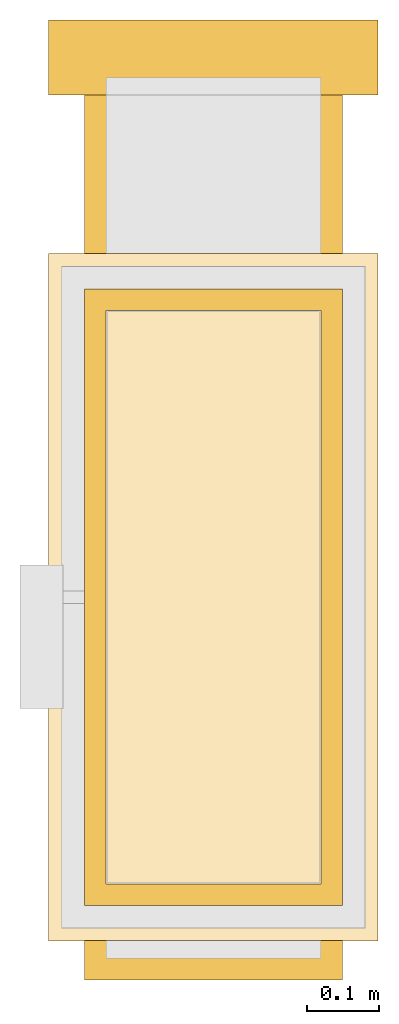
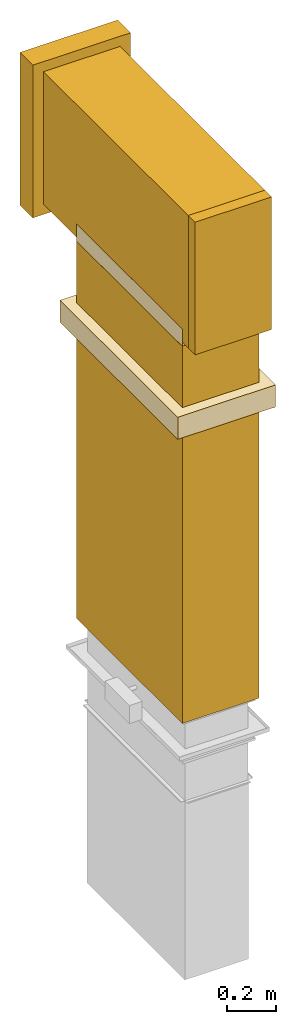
# One storey, part 1 of 4: 7 coverings.
"""IFC2X3 building model written with IfcOpenShell, lengths in millimetres."""

from ifc_helpers import new_model, entity, si_unit, converted_unit, derived_unit, direction, frame, origin_with_axes, origin_2d_with_axis, place, context, subcontext, project, spatial, hollow_rectangle, extrude, open_shell, surface_model, source, transform, mapped, element, save


model = new_model("IFC2X3")

# Units and contexts
model_context = context("Model", 3, precision=0.01, world=frame((0.0, 4.29681676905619e-09, 0.0)), true_north=direction((4.01073788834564e-13, 1.0)))
plan_context = context("Plan", 3, precision=0.01, world=frame((0.0, 4.29681676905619e-09, 0.0)), true_north=direction((4.01073788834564e-13, 1.0)))
body_context = subcontext(model_context, "Body", "Model", "MODEL_VIEW")
ifc_project = project(units=[converted_unit("PLANEANGLEUNIT", "DEGREE", entity("IfcPositiveLengthMeasure", 0.0174532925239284), si_unit("PLANEANGLEUNIT", "RADIAN"), dimensions=[0, 0, 0, 0, 0, 0, 0]), si_unit("AREAUNIT", "SQUARE_METRE"), si_unit("LENGTHUNIT", "METRE", prefix="MILLI"), si_unit("MASSUNIT", "GRAM", prefix="KILO"), si_unit("POWERUNIT", "WATT"), si_unit("PRESSUREUNIT", "PASCAL"), si_unit("FORCEUNIT", "NEWTON", prefix="KILO"), si_unit("ELECTRICVOLTAGEUNIT", "VOLT"), si_unit("ELECTRICCURRENTUNIT", "AMPERE"), si_unit("THERMODYNAMICTEMPERATUREUNIT", "DEGREE_CELSIUS"), si_unit("TIMEUNIT", "SECOND"), si_unit("VOLUMEUNIT", "CUBIC_METRE"), derived_unit("LINEARVELOCITYUNIT", [(si_unit("LENGTHUNIT", "METRE"), 1), (si_unit("TIMEUNIT", "SECOND"), -1)]), derived_unit("VOLUMETRICFLOWRATEUNIT", [(si_unit("VOLUMEUNIT", "CUBIC_METRE"), 1), (si_unit("TIMEUNIT", "SECOND"), -1)]), derived_unit("THERMALTRANSMITTANCEUNIT", [(si_unit("POWERUNIT", "WATT"), 1), (si_unit("THERMODYNAMICTEMPERATUREUNIT", "KELVIN"), -1), (si_unit("AREAUNIT", "SQUARE_METRE"), -1)]), derived_unit("SOUNDPRESSUREUNIT", [(si_unit("PRESSUREUNIT", "PASCAL"), 1)])], contexts=[model_context, plan_context])

# Site, building, storey
site_placement = place(None, frame((0.0, -4.29681676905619e-09, 0.0), z_axis=(0.0, 0.0, 1.0), x_axis=(1.0, 0.0, 0.0)))
site = spatial("IfcSite", under=ifc_project, at=site_placement, CompositionType="ELEMENT")
building_placement = place(site_placement, frame((0.0, 4.29681676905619e-09, 0.0), z_axis=(0.0, 0.0, 1.0), x_axis=(1.0, 0.0, 0.0)))
building = spatial("IfcBuilding", under=site, at=building_placement, Name="mc-building", CompositionType="ELEMENT")
storey_placement = place(building_placement, frame((0.0, 0.0, 204000.0), z_axis=(0.0, 0.0, 1.0), x_axis=(1.0, 0.0, 0.0)))
storey = spatial("IfcBuildingStorey", under=building, at=storey_placement, Name="Nivå D", CompositionType="ELEMENT", Elevation=204000.0)

# Coverings
shared_shape_1 = source(origin_with_axes(), body_context, "Body", "SweptSolid", [
    extrude(hollow_rectangle(XDim=360.0, YDim=660.0, WallThickness=30.0, at=origin_2d_with_axis()), frame((0.0, 0.0, 0.0), z_axis=(1.0, 0.0, 0.0), x_axis=(0.0, 1.0, 0.0)), (0.0, 0.0, 1.0), 1180.0),
])
covering_1_placement = place(storey_placement, frame((524180.93348, 457233.89597, 9376.44604000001), z_axis=(0.0, 0.0, 1.0), x_axis=(0.0, -1.0, 0.0)))
element("IfcCovering", 1, at=covering_1_placement, inside=storey, Name="EI30-30", PredefinedType="INSULATION", context=body_context, shape_type="MappedRepresentation", body=[
    mapped(shared_shape_1, transform((0.0, 0.0, 0.0), scale=1.0)),
])
shared_shape_2 = source(origin_with_axes(), body_context, "Body", "SurfaceModel", [
    surface_model("IfcShellBasedSurfaceModel", [(105.0, -230.0, 379.99999), (105.0, -230.0, -379.99999), (105.0, 230.0, -379.99999), (105.0, 230.0, 379.99999), (0.0, 230.0, 379.99999), (0.0, 230.0, -379.99999), (0.0, -230.0, -379.99999), (0.0, -230.0, 379.99999)], [open_shell([[[0, 1, 2]], [[2, 3, 0]], [[4, 5, 6]], [[6, 7, 4]], [[2, 1, 6]], [[6, 5, 2]], [[3, 2, 5]], [[5, 4, 3]], [[0, 3, 4]], [[4, 7, 0]], [[1, 0, 7]], [[7, 6, 1]]])]),
])
covering_2_placement = place(storey_placement, frame((524180.93348, 457233.89597, 9376.44604000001), z_axis=(0.0, 0.0, 1.0), x_axis=(0.0, 1.0, 0.0)))
element("IfcCovering", 2, at=covering_2_placement, inside=storey, Name="B=EI60 80", PredefinedType="INSULATION", context=body_context, shape_type="MappedRepresentation", body=[
    mapped(shared_shape_2, transform((0.0, 0.0, 0.0), scale=1.0)),
])
shared_shape_3 = source(origin_with_axes(), body_context, "Body", "SurfaceModel", [
    surface_model("IfcShellBasedSurfaceModel", [(55.0, -180.0, 329.99999), (55.0, -180.0, -329.99999), (55.0, 180.0, 329.99999), (55.0, 180.0, -329.99999), (0.0, 180.0, 329.99999), (0.0, 180.0, -329.99999), (0.0, -180.0, 329.99999), (0.0, -180.0, -329.99999)], [open_shell([[[0, 1, 2]], [[3, 2, 1]], [[4, 5, 6]], [[7, 6, 5]], [[3, 1, 7]], [[7, 5, 3]], [[2, 3, 5]], [[5, 4, 2]], [[0, 2, 4]], [[4, 6, 0]], [[1, 0, 6]], [[6, 7, 1]]])]),
])
covering_3_placement = place(storey_placement, frame((524180.93348, 456053.89597, 9376.44604000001), z_axis=(0.0, 0.0, 1.0), x_axis=(0.0, -1.0, 0.0)))
element("IfcCovering", 3, at=covering_3_placement, inside=storey, Name="EI30-30", PredefinedType="INSULATION", context=body_context, shape_type="MappedRepresentation", body=[
    mapped(shared_shape_3, transform((0.0, 0.0, 0.0), scale=1.0)),
])
shared_shape_4 = source(origin_with_axes(), body_context, "Body", "SweptSolid", [
    extrude(hollow_rectangle(XDim=360.0, YDim=860.0, WallThickness=30.0, at=origin_2d_with_axis()), frame((0.0, 0.0, 0.0), z_axis=(1.0, 0.0, 0.0), x_axis=(0.0, 1.0, 0.0)), (0.0, 0.0, 1.0), 305.5),
])
covering_4_placement = place(storey_placement, frame((524180.93348, 456533.17026, 8720.93397000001), z_axis=(0.0, 1.0, 0.0), x_axis=(0.0, 0.0, 1.0)))
element("IfcCovering", 4, at=covering_4_placement, inside=storey, Name="EI30-30", PredefinedType="INSULATION", context=body_context, shape_type="MappedRepresentation", body=[
    mapped(shared_shape_4, transform((0.0, 0.0, 0.0), scale=1.0)),
])
shared_shape_5 = source(origin_with_axes(), body_context, "Body", "SurfaceModel", [
    surface_model("IfcShellBasedSurfaceModel", [(55.0, -230.0, 479.99999), (55.0, -230.0, -479.99999), (55.0, 230.0, -479.99999), (55.0, 230.0, 479.99999), (-55.0, 230.0, 479.99999), (-55.0, 230.0, -479.99999), (-55.0, -230.0, -479.99999), (-55.0, -230.0, 479.99999)], [open_shell([[[0, 1, 2]], [[2, 3, 0]], [[4, 5, 6]], [[6, 7, 4]], [[2, 1, 5]], [[6, 5, 1]], [[3, 2, 5]], [[5, 4, 3]], [[0, 3, 7]], [[4, 7, 3]], [[1, 0, 7]], [[7, 6, 1]]])]),
])
covering_5_placement = place(storey_placement, frame((524180.93348, 456533.17026, 8665.93397000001), z_axis=(0.0, 1.0, 0.0), x_axis=(0.0, 0.0, -1.0)))
element("IfcCovering", 5, at=covering_5_placement, inside=storey, Name="B=EI60 80", PredefinedType="INSULATION", context=body_context, shape_type="MappedRepresentation", body=[
    mapped(shared_shape_5, transform((0.0, 0.0, 0.0), scale=1.0)),
])
shared_shape_6 = source(origin_with_axes(), body_context, "Body", "SurfaceModel", [
    surface_model("IfcShellBasedSurfaceModel", [(-36.096, 180.0, -429.99999), (50.0, 180.0, -429.99999), (-36.096, -180.0, -429.99999), (50.0, -180.0, -429.99999), (-36.096, -180.0, 429.99999), (50.0, -180.0, 429.99999), (50.0, 180.0, 429.99999), (-36.096, 180.0, 429.99999)], [open_shell([[[0, 1, 2]], [[3, 2, 1]], [[4, 5, 6]], [[6, 7, 4]], [[3, 1, 5]], [[6, 5, 1]], [[2, 3, 4]], [[5, 4, 3]], [[0, 2, 7]], [[4, 7, 2]], [[1, 0, 7]], [[7, 6, 1]]])]),
])
covering_6_placement = place(storey_placement, frame((524180.93348, 456533.17026, 9076.44604000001), z_axis=(0.0, -1.0, 0.0), x_axis=(0.0, 0.0, -1.0)))
element("IfcCovering", 6, at=covering_6_placement, inside=storey, Name="EI30-30", PredefinedType="INSULATION", context=body_context, shape_type="MappedRepresentation", body=[
    mapped(shared_shape_6, transform((0.0, 0.0, 0.0), scale=1.0)),
])
shared_shape_7 = source(origin_with_axes(), body_context, "Body", "SweptSolid", [
    extrude(hollow_rectangle(XDim=360.0, YDim=860.0, WallThickness=30.0, at=origin_2d_with_axis()), frame((0.0, 0.0, 0.0), z_axis=(1.0, 0.0, 0.0), x_axis=(0.0, 1.0, 0.0)), (0.0, 0.0, 1.0), 1461.3),
])
covering_7_placement = place(storey_placement, frame((524180.93348, 456533.17026, 7149.65599), z_axis=(0.0, 1.0, 0.0), x_axis=(0.0, 0.0, 1.0)))
element("IfcCovering", 7, at=covering_7_placement, inside=storey, Name="EI30-30", PredefinedType="INSULATION", context=body_context, shape_type="MappedRepresentation", body=[
    mapped(shared_shape_7, transform((0.0, 0.0, 0.0), scale=1.0)),
])

save(model, "model.ifc")
